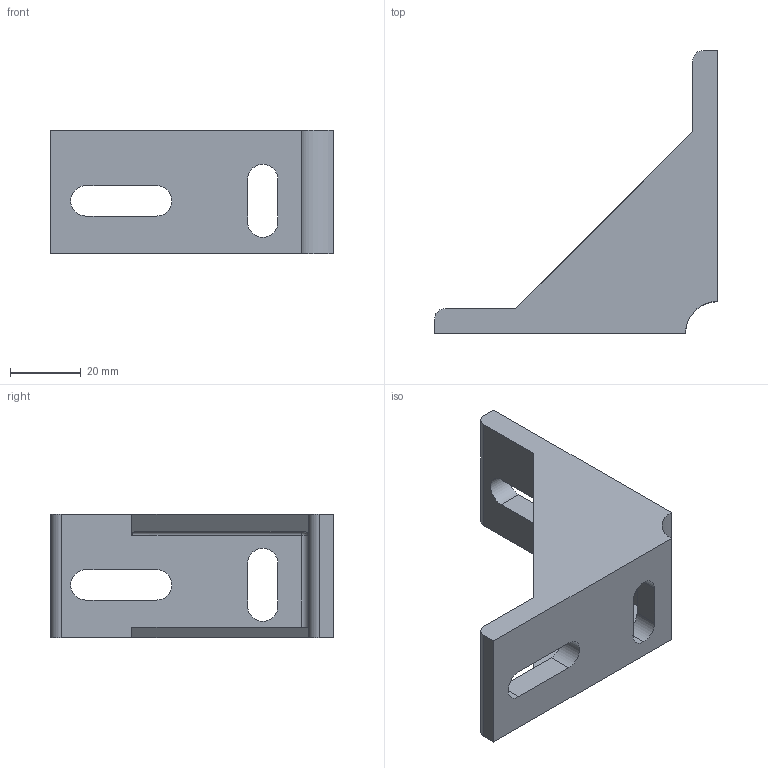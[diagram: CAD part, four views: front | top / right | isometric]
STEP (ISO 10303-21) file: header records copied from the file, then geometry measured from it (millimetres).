
FILE_DESCRIPTION (( 'STEP AP203' ), '1' );
FILE_NAME ('WT3580-8.STEP', '2024-02-19T06:26:15', ( '' ), ( '' ), 'SwSTEP 2.0', 'SolidWorks 2022', '' );
FILE_SCHEMA (( 'CONFIG_CONTROL_DESIGN' ));
Length unit declared in the file: millimetre
Products named in the file (1): WT3580-8
Bounding box: 80 x 80 x 35 mm (x, y, z)
Volume: 39688.2 mm3; surface area: 17767.3 mm2
Topology: 1 solids, 1 shells, 37 faces, 103 edges, 68 vertices
Faces by surface type: plane 20, cylinder 16, torus 1
Entity records: 1285 total; most frequent: CARTESIAN_POINT 215, DIRECTION 208, ORIENTED_EDGE 206, EDGE_CURVE 103, LINE 70, VECTOR 70, AXIS2_PLACEMENT_3D 69, VERTEX_POINT 68
